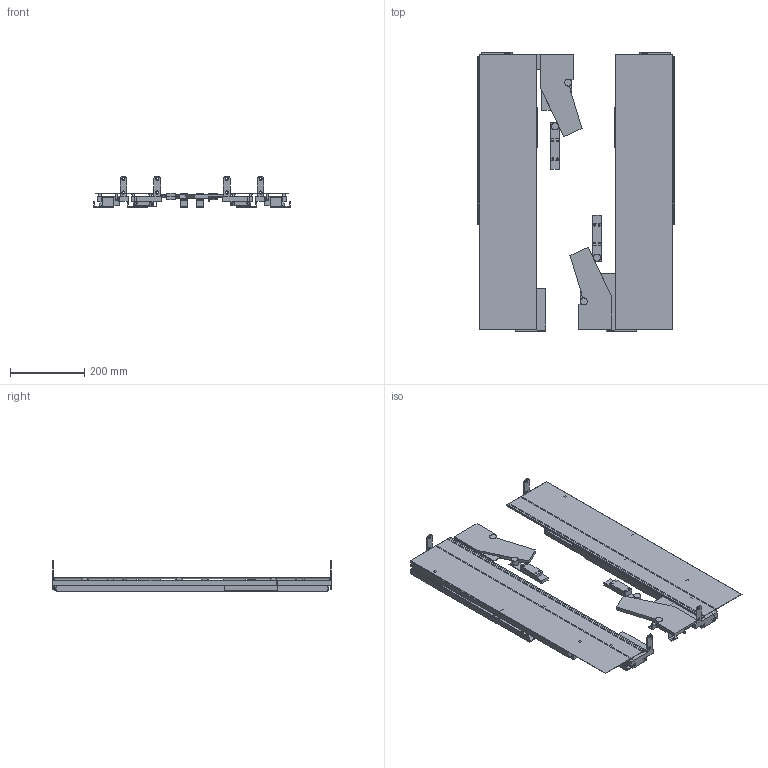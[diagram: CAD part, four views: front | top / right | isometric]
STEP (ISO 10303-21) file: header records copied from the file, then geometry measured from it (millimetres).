
FILE_DESCRIPTION(('STEP AP242'),'1');
FILE_NAME('OPO_53.499.11.stp','2025-11-08T20:32:35',(' '),(' '),'Spatial InterOp 3D',' ',' ');
FILE_SCHEMA(('AP242_MANAGED_MODEL_BASED_3D_ENGINEERING_MIM_LF {1 0 10303 442 1 1 4}'));
Length unit declared in the file: millimetre
Products named in the file (1): 1
Bounding box: 530 x 750 x 82.95 mm (x, y, z)
Volume: 3836370 mm3; surface area: 1278462 mm2
Topology: 6 solids, 6 shells, 573 faces, 1601 edges, 1048 vertices
Faces by surface type: plane 367, cylinder 174, cone 32
Entity records: 23191 total; most frequent: CARTESIAN_POINT 3228, ORIENTED_EDGE 3202, DIRECTION 3175, EDGE_CURVE 1601, LINE 1185, VECTOR 1185, VERTEX_POINT 1048, AXIS2_PLACEMENT_3D 995
